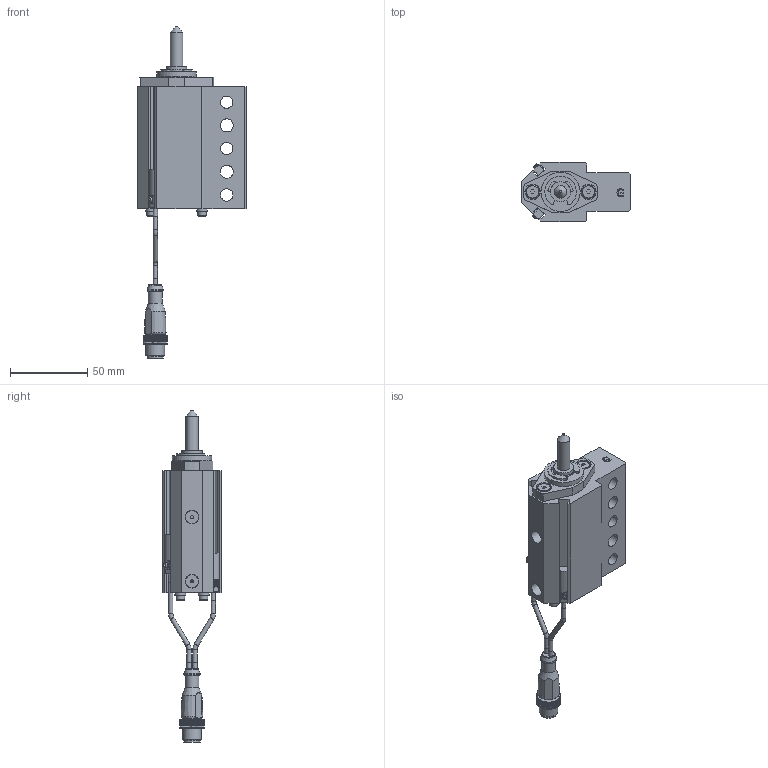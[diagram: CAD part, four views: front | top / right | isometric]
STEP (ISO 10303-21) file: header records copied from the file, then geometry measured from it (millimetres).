
FILE_DESCRIPTION(/* description */ ('NAAMS FLOATING MICRO PIN'),/* implementation_level */ '2;1');
FILE_NAME(/* name */ 'C:\Vault Workspace\CAD\Welker\Shot Pin\NMP\NMP080022GANL3.stp',/* time_stamp */ '2021-01-27T08:41:37-05:00',/* author */ ('WELKER'),/* organization */ (''),/* preprocessor_version */ 'ST-DEVELOPER v18.1',/* originating_system */ 'Autodesk Inventor 2020',/* authorisation */ '');
FILE_SCHEMA (('AUTOMOTIVE_DESIGN { 1 0 10303 214 3 1 1 }'));
Length unit declared in the file: millimetre
Products named in the file (16): NMPL01; NMP L3 SWITCH; L3 Connector; L3 Sensor 1; L3 Sensor 2; L3 Sensor cable; L3 Sensor cable 2; M3X0.5-8 SHCS; NL3; NMPE06; NMPE03; NMPE05-DIA-LENGTH; 985432A218; NMPE01G-PORT; RMPE02; M5X5 SHOULDER
Assembly tree (22 placements, depth 3):
  NMPL01
    NMP L3 SWITCH
      L3 Connector
      L3 Sensor 1
      L3 Sensor 2
      L3 Sensor cable
      L3 Sensor cable 2
    M3X0.5-8 SHCS  x4
    NL3  x4
    NMPE06
    NMPE03
    NMPE05-DIA-LENGTH
    985432A218
    NMPE01G-PORT
    RMPE02
    M5X5 SHOULDER  x2
Bounding box: 70 x 38.1 x 214.73 mm (x, y, z)
Volume: 132016.2 mm3; surface area: 49602.9 mm2
Topology: 21 solids, 21 shells, 760 faces, 2090 edges, 1402 vertices
Faces by surface type: plane 546, cylinder 149, cone 35, bspline 16, torus 11, sphere 3
Full cylindrical faces by diameter (mm): 2 x2, 2.459 x4, 2.9 x10, 3 x5, 3.242 x2, 3.4 x4, 4 x2, 5 x6, 5.5 x4, 6.647 x2, 7 x4, 8 x6, 8.3 x2, 8.5 x2, 9 x3, 10 x3, 10.4 x1, 10.5 x1, 12 x1, 13 x3, 16 x2, 19.05 x3, 21 x1, 22.5 x1, 23.673 x1, 24 x1, 25.4 x1, 25.5 x1, 26.5 x1, 28.677 x1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
Entity records: 23785 total; most frequent: CARTESIAN_POINT 4688, ORIENTED_EDGE 3870, DIRECTION 3771, EDGE_CURVE 1935, LINE 1391, VECTOR 1391, VERTEX_POINT 1307, AXIS2_PLACEMENT_3D 1190
